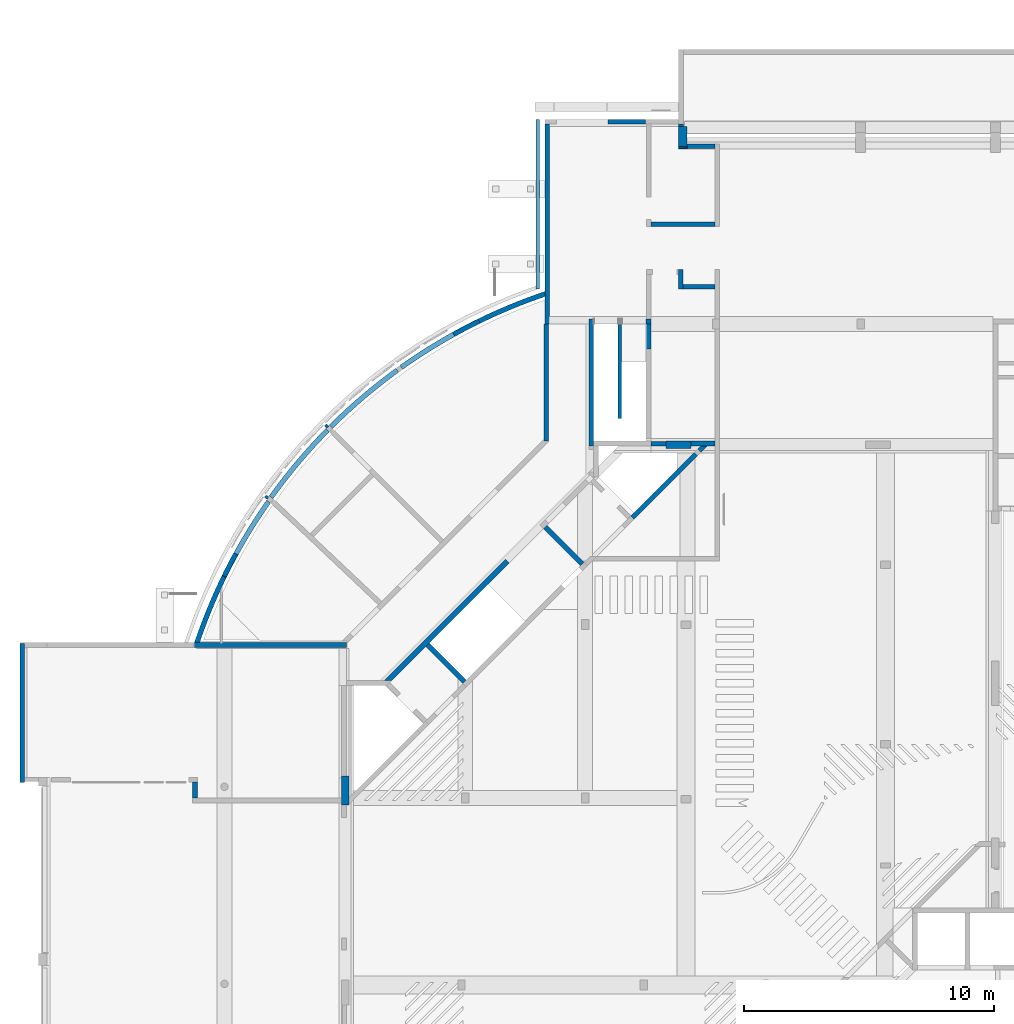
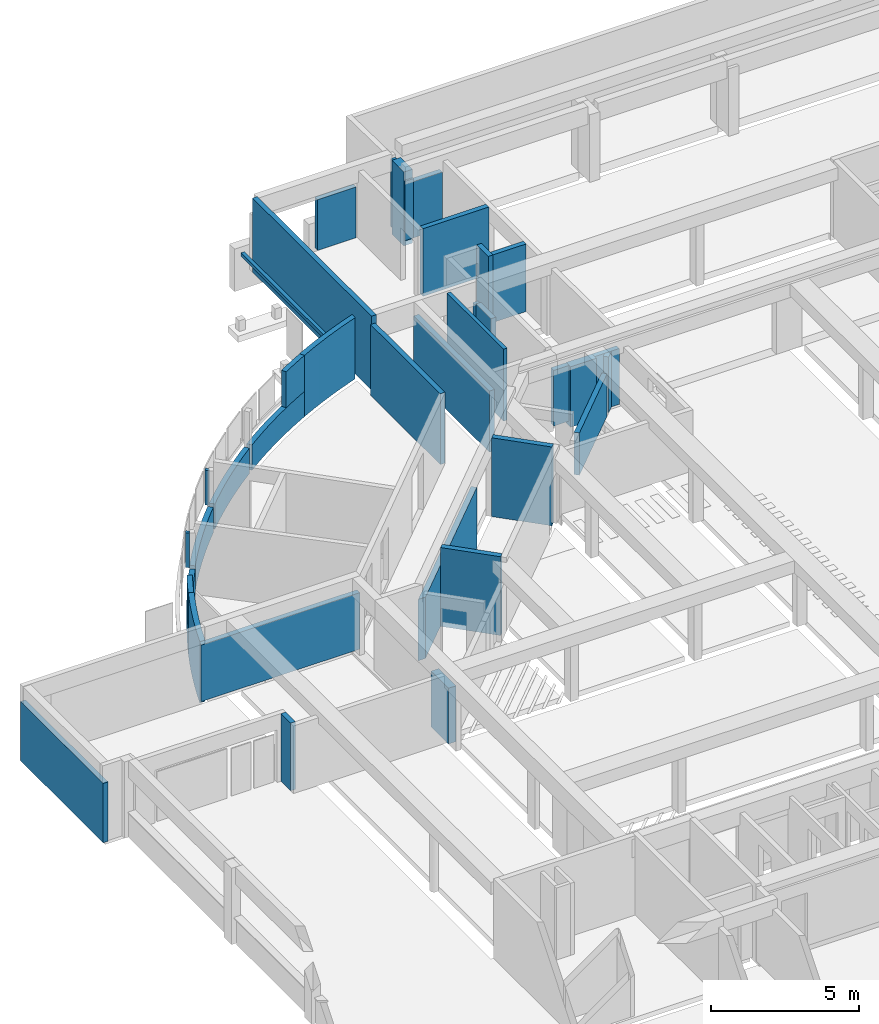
# One storey, part 9 of 22: 37 walls.
"""IFC4X3_ADD2 building model written with IfcOpenShell, lengths in millimetres."""

from ifc_helpers import new_model, si_unit, point, direction, frame, frame_2d, origin_with_axes, origin_2d_with_axis, place, context, subcontext, project, spatial, polyline, circle_curve, trimmed, segment, composite_curve, rectangle, outline, extrude, source, transform, mapped, material, type_object, type_shapes, element, save


model = new_model("IFC4X3_ADD2")

# Units and contexts
model_context = context("Model", 3, precision=1e-05, world=origin_with_axes(), true_north=direction((0.0, 1.0)))
body_context = subcontext(model_context, "Body", "Model", "MODEL_VIEW")
ifc_project = project(units=[si_unit("LENGTHUNIT", "METRE", prefix="MILLI"), si_unit("AREAUNIT", "SQUARE_METRE"), si_unit("VOLUMEUNIT", "CUBIC_METRE"), si_unit("PLANEANGLEUNIT", "RADIAN"), si_unit("TIMEUNIT", "SECOND"), si_unit("MASSUNIT", "GRAM")], contexts=[model_context])

# Site, building, storey
site_placement = place(None, origin_with_axes())
site = spatial("IfcSite", under=ifc_project, at=site_placement, Name="Site", CompositionType="ELEMENT")
building_placement = place(site_placement, origin_with_axes())
building = spatial("IfcBuilding", under=site, at=building_placement, Name="IFC Building Story")
storey_placement = place(building_placement, frame((0.0, 0.0, -3240.0), z_axis=(0.0, 0.0, 1.0), x_axis=(1.0, 0.0, 0.0)))
storey = spatial("IfcBuildingStorey", under=building, at=storey_placement, Name="K10", Elevation=-3240.0)

# Walls
ifc_material_1 = material(Name="BB_Beton_Bestaand")
wall_type_1 = type_object("IfcWallType", Name="BB_Beton_Bestaand 200", PredefinedType="NOTDEFINED", material=ifc_material_1)
wall_1_placement = place(storey_placement, origin_with_axes())
element("IfcWall", 1, at=wall_1_placement, inside=storey, type_object=wall_type_1, Name="Basic Wall:BB_XX_Wand uit beton, 200 mm", ObjectType="Basic Wall:BB_XX_Wand uit beton, 200 mm", PredefinedType="SOLIDWALL", context=body_context, shape_type="SweptSolid", body=[
    extrude(outline(composite_curve([segment(polyline([(-2011.9684567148, 102.2586953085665), (4092.356686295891, 102.2586953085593)]), True, "CONTINUOUS"), segment(polyline([(4092.356686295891, 102.2586953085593), (4092.356686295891, -97.74130469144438)]), True, "CONTINUOUS"), segment(polyline([(4092.356686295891, -97.74130469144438), (-2078.090793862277, -97.74130469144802)]), True, "CONTINUOUS"), segment(trimmed(circle_curve(frame_2d((19023.15530162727, -6963.129434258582), x_axis=(1.0, 0.0)), 22190.0009227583), [point((-2078.090793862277, -97.74130469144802))], [point((-2076.463365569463, -92.74130469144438))], False, "CARTESIAN"), True, "CONTINUOUS"), segment(trimmed(circle_curve(frame_2d((19023.15442385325, -6963.129148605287), x_axis=(1.0, 0.0)), 22189.99999967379), [point((-2076.463365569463, -92.74130469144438))], [point((-2018.190756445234, 83.70652345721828))], False, "CARTESIAN"), True, "CONTINUOUS"), segment(trimmed(circle_curve(frame_2d((19023.15430448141, -6963.129108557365), x_axis=(1.0, 0.0)), 22189.99987376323), [point((-2018.190756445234, 83.70652345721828))], [point((-2011.9684567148, 102.2586953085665))], False, "CARTESIAN"), True, "CONTINUOUS")], self_intersect=False)), frame((-42692.35668629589, 30627.74130469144, 0.0), z_axis=(0.0, 0.0, 1.0), x_axis=(1.0, 0.0, 0.0)), (0.0, 0.0, 1.0), 2320.0),
])
wall_2_placement = place(storey_placement, origin_with_axes())
element("IfcWall", 2, at=wall_2_placement, inside=storey, type_object=wall_type_1, Name="Basic Wall:BB_XX_Wand uit beton, 200 mm", ObjectType="Basic Wall:BB_XX_Wand uit beton, 200 mm", PredefinedType="SOLIDWALL", context=body_context, shape_type="SweptSolid", body=[
    extrude(outline(composite_curve([segment(polyline([(452.8943367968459, 1363.527634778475), (632.560463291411, 1275.663631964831)]), True, "CONTINUOUS"), segment(trimmed(circle_curve(frame_2d((20386.85107143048, -8384.98347740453), x_axis=(1.0, 0.0)), 21990.00000005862), [point((632.560463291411, 1275.663631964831))], [point((-437.182990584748, -1319.595633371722))], True, "CARTESIAN"), True, "CONTINUOUS"), segment(polyline([(-437.182990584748, -1319.595633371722), (-648.2718095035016, -1319.595633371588)]), True, "CONTINUOUS"), segment(trimmed(circle_curve(frame_2d((20386.85107143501, -8384.983477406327), x_axis=(1.0, 0.0)), 22190.00000006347), [point((-648.2718095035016, -1319.595633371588))], [point((452.8943367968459, 1363.527634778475))], False, "CARTESIAN"), True, "CONTINUOUS")], self_intersect=False)), frame((-44056.05333350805, 32049.59563337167, -200.0), z_axis=(0.0, 0.0, 1.0), x_axis=(1.0, 0.0, 0.0)), (0.0, 0.0, 1.0), 2519.99999999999),
])
wall_3_placement = place(storey_placement, origin_with_axes())
element("IfcWall", 3, at=wall_3_placement, inside=storey, type_object=wall_type_1, Name="Basic Wall:BB_XX_Wand uit beton, 200 mm", ObjectType="Basic Wall:BB_XX_Wand uit beton, 200 mm", PredefinedType="SOLIDWALL", context=body_context, shape_type="SweptSolid", body=[
    extrude(outline(polyline([(-2537.87689398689, -2396.455537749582), (2325.744859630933, 2467.166215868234), (2467.166215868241, 2325.744859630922), (-2255.034181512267, -2396.455537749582), (-2537.87689398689, -2396.455537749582)])), frame((-34557.96004997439, 31596.45553774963, -200.0), z_axis=(0.0, 0.0, 1.0), x_axis=(1.0, 0.0, 0.0)), (0.0, 0.0, 1.0), 2520.0),
])
wall_4_placement = place(storey_placement, origin_with_axes())
element("IfcWall", 4, at=wall_4_placement, inside=storey, type_object=wall_type_1, Name="Basic Wall:BB_XX_Wand uit beton, 200 mm", ObjectType="Basic Wall:BB_XX_Wand uit beton, 200 mm", PredefinedType="SOLIDWALL", context=body_context, shape_type="SweptSolid", body=[
    extrude(rectangle(XDim=2100.000000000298, YDim=199.9999999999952, at=frame_2d((0.0, 0.0), x_axis=(-0.7071067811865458, 0.7071067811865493))), frame((-29905.83388024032, 34622.23611075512, -200.0), z_axis=(0.0, 0.0, 1.0), x_axis=(1.0, 0.0, 0.0)), (0.0, 0.0, 1.0), 3240.0),
])
wall_5_placement = place(storey_placement, origin_with_axes())
element("IfcWall", 5, at=wall_5_placement, inside=storey, type_object=wall_type_1, Name="Basic Wall:BB_XX_Wand uit beton, 200 mm", ObjectType="Basic Wall:BB_XX_Wand uit beton, 200 mm", PredefinedType="SOLIDWALL", context=body_context, shape_type="SweptSolid", body=[
    extrude(rectangle(XDim=2099.999999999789, YDim=199.9999999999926, at=frame_2d((0.0, 0.0), x_axis=(0.707106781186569, -0.707106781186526))), frame((-34622.2361107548, 29905.8338802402, -200.0), z_axis=(0.0, 0.0, 1.0), x_axis=(1.0, 0.0, 0.0)), (0.0, 0.0, 1.0), 3240.0),
])
wall_6_placement = place(storey_placement, origin_with_axes())
element("IfcWall", 6, at=wall_6_placement, inside=storey, type_object=wall_type_1, Name="Basic Wall:BB_XX_Wand uit beton, 200 mm", ObjectType="Basic Wall:BB_XX_Wand uit beton, 200 mm", PredefinedType="SOLIDWALL", context=body_context, shape_type="SweptSolid", body=[
    extrude(rectangle(XDim=5100.004065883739, YDim=200.0, at=frame_2d((0.0, 0.0), x_axis=(0.0, 1.0))), frame((-28800.0, 41149.99796705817, -200.0), z_axis=(0.0, 0.0, 1.0), x_axis=(1.0, 0.0, 0.0)), (0.0, 0.0, 1.0), 2520.0),
])
wall_7_placement = place(storey_placement, origin_with_axes())
element("IfcWall", 7, at=wall_7_placement, inside=storey, type_object=wall_type_1, Name="Basic Wall:BB_XX_Wand uit beton, 200 mm", ObjectType="Basic Wall:BB_XX_Wand uit beton, 200 mm", PredefinedType="SOLIDWALL", context=body_context, shape_type="SweptSolid", body=[
    extrude(rectangle(XDim=200.0, YDim=199.9999999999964, at=frame_2d((0.0, 0.0), x_axis=(0.0, 1.0))), frame((-26500.0, 43600.0, 0.0), z_axis=(0.0, 0.0, 1.0), x_axis=(1.0, 0.0, 0.0)), (0.0, 0.0, 1.0), 2060.0),
])
wall_8_placement = place(storey_placement, origin_with_axes())
element("IfcWall", 8, at=wall_8_placement, inside=storey, type_object=wall_type_1, Name="Basic Wall:BB_XX_Wand uit beton, 200 mm", ObjectType="Basic Wall:BB_XX_Wand uit beton, 200 mm", PredefinedType="SOLIDWALL", context=body_context, shape_type="SweptSolid", body=[
    extrude(outline(composite_curve([segment(polyline([(1319.97627980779, 649.1082975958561), (1319.976279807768, 437.9567030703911)]), True, "CONTINUOUS"), segment(trimmed(circle_curve(frame_2d((8457.701661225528, -20539.11956584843), x_axis=(1.0, 0.0)), 22158.17800299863), [point((1319.976279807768, 437.9567030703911))], [point((-1276.04780578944, -633.367288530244))], True, "CARTESIAN"), True, "CONTINUOUS"), segment(polyline([(-1276.04780578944, -633.367288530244), (-1363.904753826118, -453.6977121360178)]), True, "CONTINUOUS"), segment(trimmed(circle_curve(frame_2d((8457.701661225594, -20539.11956584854), x_axis=(1.0, 0.0)), 22358.17800299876), [point((-1363.904753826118, -453.6977121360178))], [point((1319.97627980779, 649.1082975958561))], False, "CARTESIAN"), True, "CONTINUOUS")], self_intersect=False)), frame((-31979.97627980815, 44153.51634534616, -200.0), z_axis=(0.0, 0.0, 1.0), x_axis=(1.0, 0.0, 0.0)), (0.0, 0.0, 1.0), 2519.99999999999),
])
wall_9_placement = place(storey_placement, origin_with_axes())
element("IfcWall", 9, at=wall_9_placement, inside=storey, type_object=wall_type_1, Name="Basic Wall:BB_XX_Wand uit beton, 200 mm", ObjectType="Basic Wall:BB_XX_Wand uit beton, 200 mm", PredefinedType="SOLIDWALL", context=body_context, shape_type="SweptSolid", body=[
    extrude(outline(composite_curve([segment(polyline([(-1496.254734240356, -1005.387973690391), (-1612.110968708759, -842.3624145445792)]), True, "CONTINUOUS"), segment(trimmed(circle_curve(frame_2d((11307.70013183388, -19022.30273787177), x_axis=(1.0, 0.0)), 22303.17800299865), [point((-1612.110968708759, -842.3624145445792))], [point((1510.254377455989, 1013.709982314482))], False, "CARTESIAN"), True, "CONTINUOUS"), segment(polyline([(1510.254377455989, 1013.709982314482), (1598.111325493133, 834.0404059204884)]), True, "CONTINUOUS"), segment(trimmed(circle_curve(frame_2d((11307.70013183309, -19022.30273787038), x_axis=(1.0, 0.0)), 22103.17800299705), [point((1598.111325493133, 834.0404059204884))], [point((-1496.254734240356, -1005.387973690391))], True, "CARTESIAN"), True, "CONTINUOUS")], self_intersect=False)), frame((-34854.13541110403, 42686.10865083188, -200.0), z_axis=(0.0, 0.0, 1.0), x_axis=(1.0, 0.0, 0.0)), (0.0, 0.0, 1.0), 1040.0),
])
wall_10_placement = place(storey_placement, origin_with_axes())
element("IfcWall", 10, at=wall_10_placement, inside=storey, type_object=wall_type_1, Name="Basic Wall:BB_XX_Wand uit beton, 200 mm", ObjectType="Basic Wall:BB_XX_Wand uit beton, 200 mm", PredefinedType="SOLIDWALL", context=body_context, shape_type="SweptSolid", body=[
    extrude(outline(composite_curve([segment(polyline([(-800.5194182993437, -1549.443597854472), (-980.1855449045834, -1461.57959526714)]), True, "CONTINUOUS"), segment(trimmed(circle_curve(frame_2d((18962.75450833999, -11214.48388247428), x_axis=(1.0, 0.0)), 22200.00000006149), [point((-980.1855449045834, -1461.57959526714))], [point((808.5769068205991, 1563.068137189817))], False, "CARTESIAN"), True, "CONTINUOUS"), segment(polyline([(808.5769068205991, 1563.068137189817), (972.1280563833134, 1447.955055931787)]), True, "CONTINUOUS"), segment(trimmed(circle_curve(frame_2d((18962.75450833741, -11214.48388247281), x_axis=(1.0, 0.0)), 22000.00000005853), [point((972.1280563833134, 1447.955055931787))], [point((-800.5194182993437, -1549.443597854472))], True, "CARTESIAN"), True, "CONTINUOUS")], self_intersect=False)), frame((-42622.9734642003, 34874.70283836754, -200.0), z_axis=(0.0, 0.0, 1.0), x_axis=(1.0, 0.0, 0.0)), (0.0, 0.0, 1.0), 1040.0),
])
wall_11_placement = place(storey_placement, origin_with_axes())
element("IfcWall", 11, at=wall_11_placement, inside=storey, type_object=wall_type_1, Name="Basic Wall:BB_XX_Wand uit beton, 200 mm", ObjectType="Basic Wall:BB_XX_Wand uit beton, 200 mm", PredefinedType="SOLIDWALL", context=body_context, shape_type="SweptSolid", body=[
    extrude(outline(composite_curve([segment(polyline([(-1046.906799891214, -1400.345162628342), (-1209.664453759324, -1284.11286889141)]), True, "CONTINUOUS"), segment(trimmed(circle_curve(frame_2d((16985.15852891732, -14277.82443421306), x_axis=(1.0, 0.0)), 22358.17800299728), [point((-1209.664453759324, -1284.11286889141))], [point((1057.044966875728, 1412.405709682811))], False, "CARTESIAN"), True, "CONTINUOUS"), segment(polyline([(1057.044966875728, 1412.405709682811), (1199.526286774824, 1272.052321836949)]), True, "CONTINUOUS"), segment(trimmed(circle_curve(frame_2d((16985.15852891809, -14277.82443421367), x_axis=(1.0, 0.0)), 22158.17800299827), [point((1199.526286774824, 1272.052321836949))], [point((-1046.906799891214, -1400.345162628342))], True, "CARTESIAN"), True, "CONTINUOUS")], self_intersect=False)), frame((-40502.00657507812, 37896.07767800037, -200.0), z_axis=(0.0, 0.0, 1.0), x_axis=(1.0, 0.0, 0.0)), (0.0, 0.0, 1.0), 1040.0),
])
wall_12_placement = place(storey_placement, origin_with_axes())
element("IfcWall", 12, at=wall_12_placement, inside=storey, type_object=wall_type_1, Name="Basic Wall:BB_XX_Wand uit beton, 200 mm", ObjectType="Basic Wall:BB_XX_Wand uit beton, 200 mm", PredefinedType="SOLIDWALL", context=body_context, shape_type="SweptSolid", body=[
    extrude(outline(composite_curve([segment(polyline([(-1259.531155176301, -1203.533212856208), (-1400.75236084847, -1061.911988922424)]), True, "CONTINUOUS"), segment(trimmed(circle_curve(frame_2d((14386.49191024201, -16893.87465748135), x_axis=(1.0, 0.0)), 22358.17800299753), [point((-1400.75236084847, -1061.911988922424))], [point((1271.483092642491, 1213.711248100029))], False, "CARTESIAN"), True, "CONTINUOUS"), segment(polyline([(1271.483092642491, 1213.711248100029), (1388.800423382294, 1051.733953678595)]), True, "CONTINUOUS"), segment(trimmed(circle_curve(frame_2d((14386.49191024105, -16893.87465748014), x_axis=(1.0, 0.0)), 22158.17800299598), [point((1388.800423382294, 1051.733953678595))], [point((-1259.531155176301, -1203.533212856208))], True, "CARTESIAN"), True, "CONTINUOUS")], self_intersect=False)), frame((-37903.33995640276, 40512.12790126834, -200.0), z_axis=(0.0, 0.0, 1.0), x_axis=(1.0, 0.0, 0.0)), (0.0, 0.0, 1.0), 1040.0),
])
wall_type_2 = type_object("IfcWallType", Name="BB_Beton_Bestaand 190", PredefinedType="NOTDEFINED", material=ifc_material_1)
wall_13_placement = place(storey_placement, origin_with_axes())
element("IfcWall", 13, at=wall_13_placement, inside=storey, type_object=wall_type_2, Name="Basic Wall:BB_XX_Wand uit beton, 190 mm", ObjectType="Basic Wall:BB_XX_Wand uit beton, 190 mm", PredefinedType="SOLIDWALL", context=body_context, shape_type="SweptSolid", body=[
    extrude(rectangle(XDim=8004.999999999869, YDim=190.0, at=frame_2d((0.0, 0.0), x_axis=(0.0, 1.0))), frame((-30565.0, 47502.49999999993, 0.0), z_axis=(0.0, 0.0, 1.0), x_axis=(1.0, 0.0, 0.0)), (0.0, 0.0, 1.0), 3040.0),
])
wall_14_placement = place(storey_placement, origin_with_axes())
element("IfcWall", 14, at=wall_14_placement, inside=storey, type_object=wall_type_2, Name="Basic Wall:BB_XX_Wand uit beton, 190 mm", ObjectType="Basic Wall:BB_XX_Wand uit beton, 190 mm", PredefinedType="SOLIDWALL", context=body_context, shape_type="SweptSolid", body=[
    extrude(rectangle(XDim=5569.86980580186, YDim=189.9999999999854, at=frame_2d((0.0, 0.0), x_axis=(0.0, 1.0))), frame((-51600.0, 27909.93490290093, -100.0), z_axis=(0.0, 0.0, 1.0), x_axis=(1.0, 0.0, 0.0)), (0.0, 0.0, 1.0), 2440.0),
])
wall_type_3 = type_object("IfcWallType", Name="BB_Beton_Bestaand 300", PredefinedType="NOTDEFINED", material=ifc_material_1)
wall_15_placement = place(storey_placement, origin_with_axes())
element("IfcWall", 15, at=wall_15_placement, inside=storey, type_object=wall_type_3, Name="Basic Wall:BB_XX_Wand uit beton, 300 mm", ObjectType="Basic Wall:BB_XX_Wand uit beton, 300 mm", PredefinedType="SOLIDWALL", context=body_context, shape_type="SweptSolid", body=[
    extrude(rectangle(XDim=1175.0, YDim=300.0, at=frame_2d((0.0, 0.0), x_axis=(0.0, 1.0))), frame((-38650.0, 24800.0, 0.0), z_axis=(0.0, 0.0, 1.0), x_axis=(1.0, 0.0, 0.0)), (0.0, 0.0, 1.0), 2290.0),
])
wall_16_placement = place(storey_placement, origin_with_axes())
element("IfcWall", 16, at=wall_16_placement, inside=storey, type_object=wall_type_3, Name="Basic Wall:BB_XX_Wand uit beton, 300 mm", ObjectType="Basic Wall:BB_XX_Wand uit beton, 300 mm", PredefinedType="SOLIDWALL", context=body_context, shape_type="SweptSolid", body=[
    extrude(rectangle(XDim=1000.0, YDim=300.0, at=origin_2d_with_axis()), frame((-25300.0, 38650.0, -200.0), z_axis=(0.0, 0.0, 1.0), x_axis=(1.0, 0.0, 0.0)), (0.0, 0.0, 1.0), 2490.0),
])
wall_type_4 = type_object("IfcWallType", Name="BB_Beton_Bestaand 340", PredefinedType="NOTDEFINED", material=ifc_material_1)
wall_17_placement = place(storey_placement, origin_with_axes())
element("IfcWall", 17, at=wall_17_placement, inside=storey, type_object=wall_type_4, Name="Basic Wall:BB_XX_Wand uit beton, 340 mm", ObjectType="Basic Wall:BB_XX_Wand uit beton, 340 mm", PredefinedType="SOLIDWALL", context=body_context, shape_type="SweptSolid", body=[
    extrude(rectangle(XDim=800.0, YDim=340.0, at=frame_2d((0.0, 0.0), x_axis=(0.0, 1.0))), frame((-25125.0, 51005.0, -260.0), z_axis=(0.0, 0.0, 1.0), x_axis=(1.0, 0.0, 0.0)), (0.0, 0.0, 1.0), 3040.0),
])
ifc_material_2 = material(Name="BB_Metselwerk_Bestaand")
wall_type_5 = type_object("IfcWallType", Name="BB_Metselwerk_Bestaand 140", PredefinedType="NOTDEFINED", material=ifc_material_2)
wall_18_placement = place(storey_placement, origin_with_axes())
element("IfcWall", 18, at=wall_18_placement, inside=storey, type_object=wall_type_5, Name="Basic Wall:BB_XX_Wand uit metselwerk, 140 mm", ObjectType="Basic Wall:BB_XX_Wand uit metselwerk, 140 mm", PredefinedType="SOLIDWALL", context=body_context, shape_type="SweptSolid", body=[
    extrude(rectangle(XDim=3800.004065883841, YDim=140.0, at=frame_2d((0.0, 0.0), x_axis=(0.0, 1.0))), frame((-27650.0, 41599.99796705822, 0.0), z_axis=(0.0, 0.0, 1.0), x_axis=(1.0, 0.0, 0.0)), (0.0, 0.0, 1.0), 2960.0),
])
wall_type_6 = type_object("IfcWallType", Name="BB_Metselwerk_Bestaand 190", PredefinedType="NOTDEFINED", material=ifc_material_2)
wall_19_placement = place(storey_placement, origin_with_axes())
element("IfcWall", 19, at=wall_19_placement, inside=storey, type_object=wall_type_6, Name="Basic Wall:BB_XX_Wand uit metselwerk, 190 mm", ObjectType="Basic Wall:BB_XX_Wand uit metselwerk, 190 mm", PredefinedType="SOLIDWALL", context=body_context, shape_type="SweptSolid", body=[
    extrude(rectangle(XDim=4700.004065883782, YDim=190.0, at=frame_2d((0.0, 0.0), x_axis=(0.0, 1.0))), frame((-30600.0, 41149.99796705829, -200.0), z_axis=(0.0, 0.0, 1.0), x_axis=(1.0, 0.0, 0.0)), (0.0, 0.0, 1.0), 2910.0),
])
ifc_material_3 = material(Name="BB_Metselwerk_Betonsteen")
wall_type_7 = type_object("IfcWallType", Name="BB_Metselwerk_Betonsteen 190", PredefinedType="NOTDEFINED", material=ifc_material_3)
wall_20_placement = place(storey_placement, origin_with_axes())
element("IfcWall", 20, at=wall_20_placement, inside=storey, type_object=wall_type_7, Name="Basic Wall:BB_03.09.24#03_Wand uit metselwerk, 190 mm", ObjectType="Basic Wall:BB_03.09.24#03_Wand uit metselwerk, 190 mm", PredefinedType="SOLIDWALL", context=body_context, shape_type="SweptSolid", body=[
    extrude(outline(composite_curve([segment(polyline([(148.1385739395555, 492.7996404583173), (314.8384371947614, 401.6341009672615)]), True, "CONTINUOUS"), segment(trimmed(circle_curve(frame_2d((19608.15418980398, -10149.57754856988), x_axis=(1.0, 0.0)), 21990.00000007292), [point((314.8384371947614, 401.6341009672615))], [point((-146.1470495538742, -488.9521781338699))], True, "CARTESIAN"), True, "CONTINUOUS"), segment(polyline([(-146.1470495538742, -488.9521781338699), (-316.8299615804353, -405.4815632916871)]), True, "CONTINUOUS"), segment(trimmed(circle_curve(frame_2d((19608.15418979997, -10149.57754856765), x_axis=(1.0, 0.0)), 22180.00000006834), [point((-316.8299615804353, -405.4815632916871))], [point((148.1385739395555, 492.7996404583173))], False, "CARTESIAN"), True, "CONTINUOUS")], self_intersect=False)), frame((-43279.66012476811, 33837.59226137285, 840.0), z_axis=(0.0, 0.0, 1.0), x_axis=(1.0, 0.0, 0.0)), (0.0, 0.0, 1.0), 1480.0),
])
wall_21_placement = place(storey_placement, origin_with_axes())
element("IfcWall", 21, at=wall_21_placement, inside=storey, type_object=wall_type_7, Name="Basic Wall:BB_03.09.24#03_Wand uit metselwerk, 190 mm", ObjectType="Basic Wall:BB_03.09.24#03_Wand uit metselwerk, 190 mm", PredefinedType="SOLIDWALL", context=body_context, shape_type="SweptSolid", body=[
    extrude(outline(composite_curve([segment(polyline([(465.7843316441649, 349.9362220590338), (549.2578418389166, 179.2547260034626)]), True, "CONTINUOUS"), segment(trimmed(circle_curve(frame_2d((10284.10467043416, -19725.96091302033), x_axis=(1.0, 0.0)), 22158.17800299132), [point((549.2578418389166, 179.2547260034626))], [point((-461.4510626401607, -347.6770777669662))], True, "CARTESIAN"), True, "CONTINUOUS"), segment(polyline([(-461.4510626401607, -347.6770777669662), (-553.5911108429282, -181.5138702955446)]), True, "CONTINUOUS"), segment(trimmed(circle_curve(frame_2d((10284.10467043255, -19725.9609130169), x_axis=(1.0, 0.0)), 22348.17800298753), [point((-553.5911108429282, -181.5138702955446))], [point((465.7843316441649, 349.9362220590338))], False, "CARTESIAN"), True, "CONTINUOUS")], self_intersect=False)), frame((-33800.95271659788, 43344.2141568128, 840.0), z_axis=(0.0, 0.0, 1.0), x_axis=(1.0, 0.0, 0.0)), (0.0, 0.0, 1.0), 1480.0),
])
wall_22_placement = place(storey_placement, origin_with_axes())
element("IfcWall", 22, at=wall_22_placement, inside=storey, type_object=wall_type_7, Name="Basic Wall:BB_03.09.24#05_Wand uit metselwerk_EI60, 190 mm", ObjectType="Basic Wall:BB_03.09.24#05_Wand uit metselwerk_EI60, 190 mm", PredefinedType="SOLIDWALL", context=body_context, shape_type="SweptSolid", body=[
    extrude(rectangle(XDim=1115.000000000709, YDim=189.9999999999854, at=origin_2d_with_axis()), frame((-24397.49999999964, 50625.0, 0.0), z_axis=(0.0, 0.0, 1.0), x_axis=(1.0, 0.0, 0.0)), (0.0, 0.0, 1.0), 2320.0),
])
wall_23_placement = place(storey_placement, origin_with_axes())
element("IfcWall", 23, at=wall_23_placement, inside=storey, type_object=wall_type_7, Name="Basic Wall:BB_03.09.24#05_Wand uit metselwerk_EI60, 190 mm", ObjectType="Basic Wall:BB_03.09.24#05_Wand uit metselwerk_EI60, 190 mm", PredefinedType="SOLIDWALL", context=body_context, shape_type="SweptSolid", body=[
    extrude(rectangle(XDim=960.000000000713, YDim=190.0, at=origin_2d_with_axis()), frame((-24319.99999999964, 38704.9959341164, 0.0), z_axis=(0.0, 0.0, 1.0), x_axis=(1.0, 0.0, 0.0)), (0.0, 0.0, 1.0), 2290.0),
])
wall_24_placement = place(storey_placement, origin_with_axes())
element("IfcWall", 24, at=wall_24_placement, inside=storey, type_object=wall_type_7, Name="Basic Wall:BB_03.09.24#05_Wand uit metselwerk_EI60, 190 mm", ObjectType="Basic Wall:BB_03.09.24#05_Wand uit metselwerk_EI60, 190 mm", PredefinedType="SOLIDWALL", context=body_context, shape_type="SweptSolid", body=[
    extrude(rectangle(XDim=3603.312901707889, YDim=189.9999999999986, at=frame_2d((0.0, 0.0), x_axis=(0.7071067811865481, 0.7071067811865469))), frame((-25884.76054157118, 37009.89278489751, 0.0), z_axis=(0.0, 0.0, 1.0), x_axis=(1.0, 0.0, 0.0)), (0.0, 0.0, 1.0), 1739.99999999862),
])
wall_25_placement = place(storey_placement, origin_with_axes())
element("IfcWall", 25, at=wall_25_placement, inside=storey, type_object=wall_type_7, Name="Basic Wall:BB_03.09.24#05_Wand uit metselwerk_EI60, 190 mm", ObjectType="Basic Wall:BB_03.09.24#05_Wand uit metselwerk_EI60, 190 mm", PredefinedType="SOLIDWALL", context=body_context, shape_type="SweptSolid", body=[
    extrude(rectangle(XDim=600.0000000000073, YDim=190.0, at=origin_2d_with_axis()), frame((-26100.0, 38694.9959341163, 0.0), z_axis=(0.0, 0.0, 1.0), x_axis=(1.0, 0.0, 0.0)), (0.0, 0.0, 1.0), 2290.0),
])
wall_26_placement = place(storey_placement, origin_with_axes())
element("IfcWall", 26, at=wall_26_placement, inside=storey, type_object=wall_type_7, Name="Basic Wall:BB_03.09.24#05_Wand uit metselwerk_EI60, 190 mm", ObjectType="Basic Wall:BB_03.09.24#05_Wand uit metselwerk_EI60, 190 mm", PredefinedType="SOLIDWALL", context=body_context, shape_type="SweptSolid", body=[
    extrude(rectangle(XDim=1000.000000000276, YDim=190.0, at=frame_2d((0.0, 0.0), x_axis=(0.0, 1.0))), frame((-26495.0, 42999.99999999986, 0.0), z_axis=(0.0, 0.0, 1.0), x_axis=(1.0, 0.0, 0.0)), (0.0, 0.0, 1.0), 2120.0),
])
wall_27_placement = place(storey_placement, origin_with_axes())
element("IfcWall", 27, at=wall_27_placement, inside=storey, type_object=wall_type_7, Name="Basic Wall:BB_03.09.24#05_Wand uit metselwerk_EI60, 190 mm", ObjectType="Basic Wall:BB_03.09.24#05_Wand uit metselwerk_EI60, 190 mm", PredefinedType="SOLIDWALL", context=body_context, shape_type="SweptSolid", body=[
    extrude(rectangle(XDim=790.0, YDim=190.0, at=frame_2d((0.0, 0.0), x_axis=(0.0, 1.0))), frame((-25215.0, 45285.0, 0.0), z_axis=(0.0, 0.0, 1.0), x_axis=(1.0, 0.0, 0.0)), (0.0, 0.0, 1.0), 2780.0),
])
wall_28_placement = place(storey_placement, origin_with_axes())
element("IfcWall", 28, at=wall_28_placement, inside=storey, type_object=wall_type_7, Name="Basic Wall:BB_03.09.24#05_Wand uit metselwerk_EI60, 190 mm", ObjectType="Basic Wall:BB_03.09.24#05_Wand uit metselwerk_EI60, 190 mm", PredefinedType="SOLIDWALL", context=body_context, shape_type="SweptSolid", body=[
    extrude(rectangle(XDim=1280.000000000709, YDim=189.9999999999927, at=origin_2d_with_axis()), frame((-24479.99999999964, 44985.0, 0.0), z_axis=(0.0, 0.0, 1.0), x_axis=(1.0, 0.0, 0.0)), (0.0, 0.0, 1.0), 2780.0),
])
wall_29_placement = place(storey_placement, origin_with_axes())
element("IfcWall", 29, at=wall_29_placement, inside=storey, type_object=wall_type_7, Name="Basic Wall:BB_03.09.24#05_Wand uit metselwerk_EI60, 190 mm", ObjectType="Basic Wall:BB_03.09.24#05_Wand uit metselwerk_EI60, 190 mm", PredefinedType="SOLIDWALL", context=body_context, shape_type="SweptSolid", body=[
    extrude(rectangle(XDim=2560.000000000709, YDim=189.9999999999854, at=origin_2d_with_axis()), frame((-25119.99999999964, 47495.0, 0.0), z_axis=(0.0, 0.0, 1.0), x_axis=(1.0, 0.0, 0.0)), (0.0, 0.0, 1.0), 2780.0),
])
wall_30_placement = place(storey_placement, origin_with_axes())
element("IfcWall", 30, at=wall_30_placement, inside=storey, type_object=wall_type_7, Name="Basic Wall:BB_03.09.24#03_Wand uit metselwerk, 190 mm", ObjectType="Basic Wall:BB_03.09.24#03_Wand uit metselwerk, 190 mm", PredefinedType="SOLIDWALL", context=body_context, shape_type="SweptSolid", body=[
    extrude(rectangle(XDim=650.0000000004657, YDim=189.9999999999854, at=frame_2d((0.0, 0.0), x_axis=(0.0, 1.0))), frame((-44680.0, 24815.00000000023, 0.0), z_axis=(0.0, 0.0, 1.0), x_axis=(1.0, 0.0, 0.0)), (0.0, 0.0, 1.0), 2780.0),
])
wall_31_placement = place(storey_placement, origin_with_axes())
element("IfcWall", 31, at=wall_31_placement, inside=storey, type_object=wall_type_7, Name="Basic Wall:BB_03.09.24#03_Wand uit metselwerk, 190 mm", ObjectType="Basic Wall:BB_03.09.24#03_Wand uit metselwerk, 190 mm", PredefinedType="SOLIDWALL", context=body_context, shape_type="SweptSolid", body=[
    extrude(rectangle(XDim=1498.0, YDim=189.9999999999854, at=origin_2d_with_axis()), frame((-27379.0, 51600.0, 0.0), z_axis=(0.0, 0.0, 1.0), x_axis=(1.0, 0.0, 0.0)), (0.0, 0.0, 1.0), 2089.00000000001),
])
wall_type_8 = type_object("IfcWallType", Name="BB_Metselwerk_Betonsteen 70", PredefinedType="NOTDEFINED", material=ifc_material_3)
wall_32_placement = place(storey_placement, origin_with_axes())
element("IfcWall", 32, at=wall_32_placement, inside=storey, type_object=wall_type_8, Name="Basic Wall:BB_03.09.24#01_Wand uit metselwerk, 70 mm", ObjectType="Basic Wall:BB_03.09.24#01_Wand uit metselwerk, 70 mm", PredefinedType="SOLIDWALL", context=body_context, shape_type="SweptSolid", body=[
    extrude(rectangle(XDim=340.0, YDim=70.0, at=origin_2d_with_axis()), frame((-25125.0, 50565.0, 0.0), z_axis=(0.0, 0.0, 1.0), x_axis=(1.0, 0.0, 0.0)), (0.0, 0.0, 1.0), 2440.0),
])
wall_type_9 = type_object("IfcWallType", Name="BB_Metselwerk_Betonsteen 0", PredefinedType="NOTDEFINED", material=ifc_material_3)
wall_33_placement = place(storey_placement, origin_with_axes())
element("IfcWall", 33, at=wall_33_placement, inside=storey, type_object=wall_type_9, Name="Basic Wall:BB_03.09.24#05_Wand uit metselwerk_EI60, 190 mm", ObjectType="Basic Wall:BB_03.09.24#05_Wand uit metselwerk_EI60, 190 mm", PredefinedType="SOLIDWALL", context=body_context, shape_type="SweptSolid", body=[
    extrude(outline(polyline([(226.7094380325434, 92.35914960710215), (-25.18400539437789, -159.5342938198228), (-159.5342938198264, -25.18400539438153), (-41.99113881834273, 92.35914960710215), (226.7094380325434, 92.35914960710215)])), frame((-24377.0165419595, 38517.6367845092, 0.0), z_axis=(0.0, 0.0, 1.0), x_axis=(1.0, 0.0, 0.0)), (0.0, 0.0, 1.0), 2290.0),
])
wall_type_10 = type_object("IfcWallType", Name="Basic Wall_BB_10.01.41#xx_Brandscheidende wand_EI60_Hout 100 _ 10.100.15_ 125 mm", PredefinedType="NOTDEFINED")
shared_shape_1 = source(origin_with_axes(), body_context, "Body", "SweptSolid", [
    extrude(rectangle(XDim=137.2088309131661, YDim=14.99999999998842, at=origin_2d_with_axis()), frame((68.60441545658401, 54.99999999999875, 0.0), z_axis=(0.0, 0.0, 1.0), x_axis=(1.0, 0.0, 0.0)), (0.0, 0.0, 1.0), 1430.00000000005),
    extrude(rectangle(XDim=137.208830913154, YDim=100.0, at=origin_2d_with_axis()), frame((68.60441545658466, -2.499999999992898, 0.0), z_axis=(0.0, 0.0, 1.0), x_axis=(1.0, 0.0, 0.0)), (0.0, 0.0, 1.0), 1430.00000000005),
    extrude(rectangle(XDim=137.2088309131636, YDim=10.00000000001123, at=origin_2d_with_axis()), frame((68.60441545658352, -57.49999999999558, 0.0), z_axis=(0.0, 0.0, 1.0), x_axis=(1.0, 0.0, 0.0)), (0.0, 0.0, 1.0), 1430.00000000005),
])
type_shapes(wall_type_10, [shared_shape_1])
wall_34_placement = place(storey_placement, frame((-41867.8987529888, 36599.7434743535, 860.0), z_axis=(0.0, 0.0, 1.0), x_axis=(0.815127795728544, -0.5792811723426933, 0.0)))
element("IfcWall", 34, at=wall_34_placement, inside=storey, type_object=wall_type_10, Name="Basic Wall:BB_10.01.41#xx_Brandscheidende wand_EI60_Hout 100 / 10.100.15, 125 mm", ObjectType="Basic Wall:BB_10.01.41#xx_Brandscheidende wand_EI60_Hout 100 / 10.100.15, 125 mm", PredefinedType="PARTITIONING", context=body_context, shape_type="MappedRepresentation", body=[
    mapped(shared_shape_1, transform((0.0, 0.0, 0.0))),
])
wall_type_11 = type_object("IfcWallType", Name="Basic Wall_BB_10.01.41#xx_Brandscheidende wand_EI60_Hout 100 _ 10.100.15_ 125 mm1", PredefinedType="NOTDEFINED")
shared_shape_2 = source(origin_with_axes(), body_context, "Body", "SweptSolid", [
    extrude(rectangle(XDim=134.9999999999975, YDim=15.00000000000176, at=origin_2d_with_axis()), frame((67.49999999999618, 55.00000000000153, 0.0), z_axis=(0.0, 0.0, 1.0), x_axis=(1.0, 0.0, 0.0)), (0.0, 0.0, 1.0), 1430.0),
    extrude(rectangle(XDim=135.0000000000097, YDim=99.9999999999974, at=origin_2d_with_axis()), frame((67.49999999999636, -2.49999999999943, 0.0), z_axis=(0.0, 0.0, 1.0), x_axis=(1.0, 0.0, 0.0)), (0.0, 0.0, 1.0), 1430.0),
    extrude(rectangle(XDim=134.9999999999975, YDim=10.00000000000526, at=origin_2d_with_axis()), frame((67.49999999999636, -57.50000000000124, 0.0), z_axis=(0.0, 0.0, 1.0), x_axis=(1.0, 0.0, 0.0)), (0.0, 0.0, 1.0), 1430.0),
])
type_shapes(wall_type_11, [shared_shape_2])
wall_35_placement = place(storey_placement, frame((-39357.9894982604, 39357.9894982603, 860.0), z_axis=(0.0, 0.0, 1.0), x_axis=(-0.7071067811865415, 0.7071067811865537, 0.0)))
element("IfcWall", 35, at=wall_35_placement, inside=storey, type_object=wall_type_11, Name="Basic Wall:BB_10.01.41#xx_Brandscheidende wand_EI60_Hout 100 / 10.100.15, 125 mm", ObjectType="Basic Wall:BB_10.01.41#xx_Brandscheidende wand_EI60_Hout 100 / 10.100.15, 125 mm", PredefinedType="PARTITIONING", context=body_context, shape_type="MappedRepresentation", body=[
    mapped(shared_shape_2, transform((0.0, 0.0, 0.0))),
])
wall_type_12 = type_object("IfcWallType", Name="BB_Metselwerk_Bestaand 100", PredefinedType="NOTDEFINED", material=ifc_material_2)
wall_36_placement = place(storey_placement, origin_with_axes())
element("IfcWall", 36, at=wall_36_placement, inside=storey, type_object=wall_type_12, Name="Basic Wall:BB_XX_Wand uit metselwerk, 190 mm", ObjectType="Basic Wall:BB_XX_Wand uit metselwerk, 190 mm", PredefinedType="SOLIDWALL", context=body_context, shape_type="SweptSolid", body=[
    extrude(rectangle(XDim=190.0, YDim=99.99999999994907, at=origin_2d_with_axis()), frame((-25200.0, 51454.99999999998, 0.0), z_axis=(0.0, 0.0, 1.0), x_axis=(1.0, 0.0, 0.0)), (0.0, 0.0, 1.0), 2780.0),
])
ifc_material_4 = material(Name="BB_Metselwerk_Snelbouw")
wall_type_13 = type_object("IfcWallType", Name="BB_Metselwerk_Snelbouw 140", PredefinedType="NOTDEFINED", material=ifc_material_4)
wall_37_placement = place(storey_placement, origin_with_axes())
element("IfcWall", 37, at=wall_37_placement, inside=storey, type_object=wall_type_13, Name="Basic Wall:BB_03.02.31_Ondergronds metselwerk, 140 mm", ObjectType="Basic Wall:BB_03.02.31_Ondergronds metselwerk, 140 mm", PredefinedType="SOLIDWALL", context=body_context, shape_type="SweptSolid", body=[
    extrude(rectangle(XDim=6785.935275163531, YDim=140.0, at=frame_2d((0.0, 0.0), x_axis=(0.0, 1.0))), frame((-30935.0, 48302.03236241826, 660.0), z_axis=(0.0, 0.0, 1.0), x_axis=(1.0, 0.0, 0.0)), (0.0, 0.0, 1.0), 139.999999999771),
])

save(model, "model.ifc")
